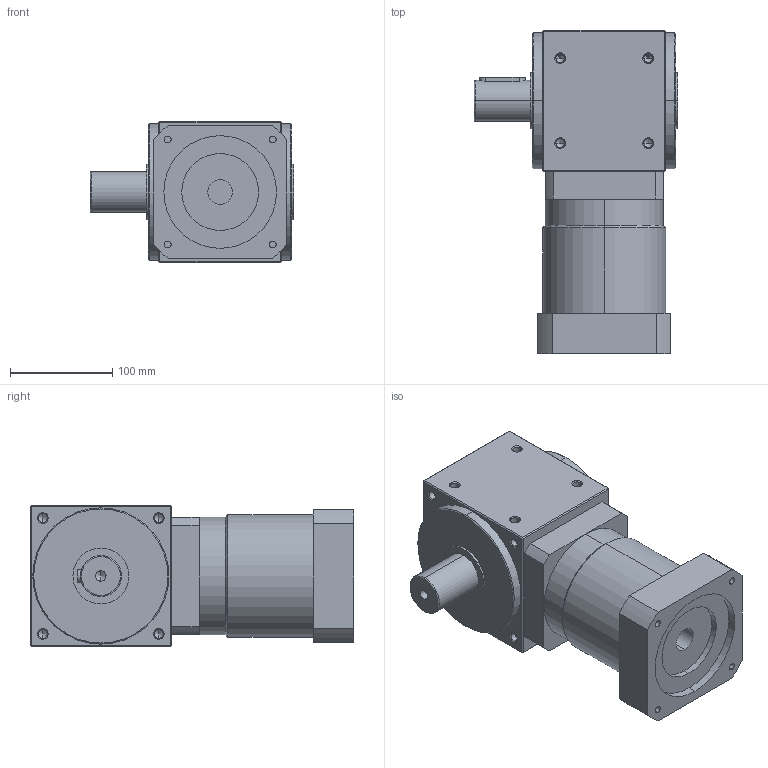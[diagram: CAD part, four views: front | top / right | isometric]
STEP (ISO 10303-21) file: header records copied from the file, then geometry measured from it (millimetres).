
FILE_DESCRIPTION (( 'STEP AP214' ), '1' );
FILE_NAME ('AAW135AS-030-2P-L2(12-100) 24-110-145-M8.STEP', '2020-11-27T03:21:01', ( '微软用户' ), ( '微软中国' ), 'SwSTEP 2.0', 'SolidWorks 2014', '' );
FILE_SCHEMA (( 'AUTOMOTIVE_DESIGN' ));
Length unit declared in the file: millimetre
Products named in the file (2): AAW135AS-030-2P-L2(12-100) 24-110-145-M8
Bounding box: 199 x 316 x 138 mm (x, y, z)
Volume: 4723620.7 mm3; surface area: 227803.2 mm2
Topology: 1 solids, 1 shells, 225 faces, 526 edges, 289 vertices
Faces by surface type: cone 88, cylinder 80, plane 55, torus 2
Entity records: 8740 total; most frequent: CARTESIAN_POINT 1198, DIRECTION 1136, ORIENTED_EDGE 968, EDGE_CURVE 484, AXIS2_PLACEMENT_3D 443, VERTEX_POINT 289, EDGE_LOOP 261, LINE 250
